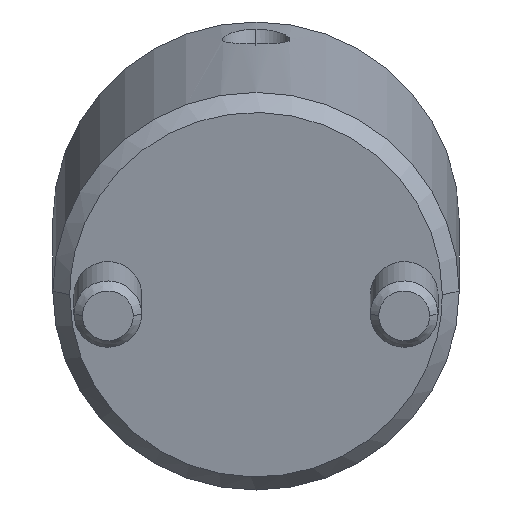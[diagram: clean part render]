
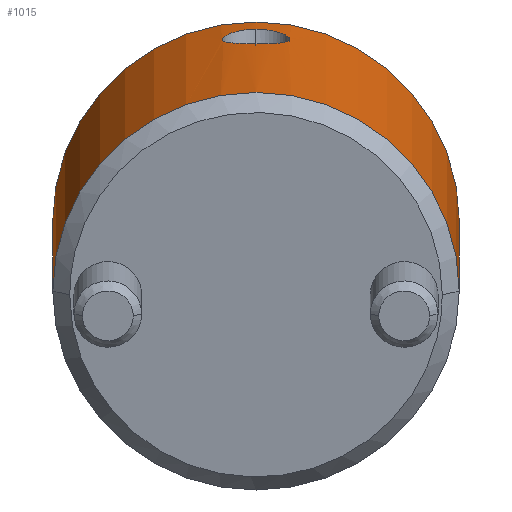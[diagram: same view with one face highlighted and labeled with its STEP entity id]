
A CAD part, front view. The second image highlights one B-rep face of the part: STEP entity #1015.
In plain terms, the highlighted cylindrical face has radius 12 mm (diameter 24 mm), a partial arc.
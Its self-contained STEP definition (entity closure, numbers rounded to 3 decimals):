
#778=CARTESIAN_POINT('Vertex',(0.,12.,1.)) ;
#781=CARTESIAN_POINT('Axis2P3D Location',(0.,0.,1.)) ;
#785=CARTESIAN_POINT('Vertex',(0.,-12.,1.)) ;
#925=CARTESIAN_POINT('Axis2P3D Location',(0.,0.,-1.1)) ;
#930=CARTESIAN_POINT('Line Origine',(0.,12.,-1.1)) ;
#934=CARTESIAN_POINT('Vertex',(0.,12.,21.)) ;
#937=CARTESIAN_POINT('Axis2P3D Location',(0.,0.,21.)) ;
#941=CARTESIAN_POINT('Vertex',(0.,-12.,21.)) ;
#944=CARTESIAN_POINT('Line Origine',(0.,-12.,-1.1)) ;
#956=CARTESIAN_POINT('Control Point',(12.,0.,18.948)) ;
#957=CARTESIAN_POINT('Control Point',(12.,0.344,18.948)) ;
#958=CARTESIAN_POINT('Control Point',(11.988,0.679,18.871)) ;
#959=CARTESIAN_POINT('Control Point',(11.964,0.999,18.717)) ;
#960=CARTESIAN_POINT('Control Point',(11.922,1.385,18.416)) ;
#961=CARTESIAN_POINT('Control Point',(11.884,1.669,18.018)) ;
#962=CARTESIAN_POINT('Control Point',(11.873,1.742,17.896)) ;
#963=CARTESIAN_POINT('Control Point',(11.854,1.867,17.64)) ;
#964=CARTESIAN_POINT('Control Point',(11.841,1.947,17.367)) ;
#965=CARTESIAN_POINT('Control Point',(11.836,1.976,17.226)) ;
#966=CARTESIAN_POINT('Control Point',(11.83,2.01,16.946)) ;
#967=CARTESIAN_POINT('Control Point',(11.833,1.997,16.665)) ;
#968=CARTESIAN_POINT('Control Point',(11.836,1.979,16.526)) ;
#969=CARTESIAN_POINT('Control Point',(11.846,1.919,16.253)) ;
#970=CARTESIAN_POINT('Control Point',(11.862,1.814,15.996)) ;
#971=CARTESIAN_POINT('Control Point',(11.872,1.751,15.874)) ;
#972=CARTESIAN_POINT('Control Point',(11.911,1.48,15.443)) ;
#973=CARTESIAN_POINT('Control Point',(11.957,1.082,15.11)) ;
#974=CARTESIAN_POINT('Control Point',(11.986,0.734,14.942)) ;
#975=CARTESIAN_POINT('Control Point',(12.,0.372,14.859)) ;
#976=CARTESIAN_POINT('Control Point',(12.,0.,14.859)) ;
#977=CARTESIAN_POINT('Vertex',(12.,0.,18.948)) ;
#979=CARTESIAN_POINT('Vertex',(12.,0.,14.859)) ;
#983=CARTESIAN_POINT('Control Point',(12.,0.,14.859)) ;
#984=CARTESIAN_POINT('Control Point',(12.,-0.139,14.859)) ;
#985=CARTESIAN_POINT('Control Point',(11.998,-0.277,14.87)) ;
#986=CARTESIAN_POINT('Control Point',(11.994,-0.413,14.894)) ;
#987=CARTESIAN_POINT('Control Point',(11.982,-0.682,14.964)) ;
#988=CARTESIAN_POINT('Control Point',(11.965,-0.934,15.08)) ;
#989=CARTESIAN_POINT('Control Point',(11.954,-1.056,15.149)) ;
#990=CARTESIAN_POINT('Control Point',(11.932,-1.283,15.305)) ;
#991=CARTESIAN_POINT('Control Point',(11.909,-1.48,15.498)) ;
#992=CARTESIAN_POINT('Control Point',(11.897,-1.569,15.603)) ;
#993=CARTESIAN_POINT('Control Point',(11.864,-1.812,15.942)) ;
#994=CARTESIAN_POINT('Control Point',(11.839,-1.961,16.335)) ;
#995=CARTESIAN_POINT('Control Point',(11.83,-2.014,16.615)) ;
#996=CARTESIAN_POINT('Control Point',(11.829,-2.021,17.04)) ;
#997=CARTESIAN_POINT('Control Point',(11.845,-1.924,17.454)) ;
#998=CARTESIAN_POINT('Control Point',(11.852,-1.881,17.589)) ;
#999=CARTESIAN_POINT('Control Point',(11.869,-1.771,17.852)) ;
#1000=CARTESIAN_POINT('Control Point',(11.891,-1.619,18.093)) ;
#1001=CARTESIAN_POINT('Control Point',(11.902,-1.532,18.208)) ;
#1002=CARTESIAN_POINT('Control Point',(11.931,-1.299,18.468)) ;
#1003=CARTESIAN_POINT('Control Point',(11.959,-1.018,18.673)) ;
#1004=CARTESIAN_POINT('Control Point',(11.973,-0.837,18.772)) ;
#1005=CARTESIAN_POINT('Control Point',(11.989,-0.56,18.88)) ;
#1006=CARTESIAN_POINT('Control Point',(11.997,-0.269,18.932)) ;
#1007=CARTESIAN_POINT('Control Point',(11.999,-0.18,18.943)) ;
#1008=CARTESIAN_POINT('Control Point',(12.,-0.09,18.948)) ;
#1009=CARTESIAN_POINT('Control Point',(12.,0.,18.948)) ;
#782=DIRECTION('Axis2P3D Direction',(0.,0.,1.)) ;
#926=DIRECTION('Axis2P3D Direction',(0.,-0.,1.)) ;
#927=DIRECTION('Axis2P3D XDirection',(0.,-1.,0.)) ;
#931=DIRECTION('Vector Direction',(0.,0.,1.)) ;
#938=DIRECTION('Axis2P3D Direction',(0.,-0.,1.)) ;
#945=DIRECTION('Vector Direction',(0.,0.,1.)) ;
#783=AXIS2_PLACEMENT_3D('Circle Axis2P3D',#781,#782,$) ;
#928=AXIS2_PLACEMENT_3D('Cylinder Axis2P3D',#925,#926,#927) ;
#939=AXIS2_PLACEMENT_3D('Circle Axis2P3D',#937,#938,$) ;
#950=ORIENTED_EDGE('',*,*,#936,.F.) ;
#951=ORIENTED_EDGE('',*,*,#943,.T.) ;
#952=ORIENTED_EDGE('',*,*,#948,.T.) ;
#953=ORIENTED_EDGE('',*,*,#787,.F.) ;
#1012=ORIENTED_EDGE('',*,*,#981,.T.) ;
#1013=ORIENTED_EDGE('',*,*,#1010,.T.) ;
#1014=FACE_BOUND('',#1011,.T.) ;
#932=VECTOR('Line Direction',#931,1.) ;
#946=VECTOR('Line Direction',#945,1.) ;
#1015=ADVANCED_FACE('MANIFOLD_SOLID_BREP #1100',(#954,#1014),#929,.T.) ;
#955=B_SPLINE_CURVE_WITH_KNOTS('',5,(#956,#957,#958,#959,#960,#961,#962,#963,#964,#965,#966,#967,#968,#969,#970,#971,#972,#973,#974,#975,#976),.UNSPECIFIED.,.F.,.U.,(6,3,3,3,3,3,6),(0.,2.427,3.431,4.427,5.412,6.39,9.01),.UNSPECIFIED.) ;
#982=B_SPLINE_CURVE_WITH_KNOTS('',5,(#983,#984,#985,#986,#987,#988,#989,#990,#991,#992,#993,#994,#995,#996,#997,#998,#999,#1000,#1001,#1002,#1003,#1004,#1005,#1006,#1007,#1008,#1009),.UNSPECIFIED.,.F.,.U.,(6,3,3,3,3,3,3,3,6),(0.,0.981,1.96,2.938,4.906,5.909,6.91,8.376,9.012),.UNSPECIFIED.) ;
#784=CIRCLE('generated circle',#783,12.) ;
#940=CIRCLE('generated circle',#939,12.) ;
#929=CYLINDRICAL_SURFACE('generated cylinder',#928,12.) ;
#787=EDGE_CURVE('',#779,#786,#784,.F.) ;
#936=EDGE_CURVE('',#935,#779,#933,.F.) ;
#943=EDGE_CURVE('',#935,#942,#940,.F.) ;
#948=EDGE_CURVE('',#942,#786,#947,.F.) ;
#981=EDGE_CURVE('',#978,#980,#955,.T.) ;
#1010=EDGE_CURVE('',#980,#978,#982,.T.) ;
#949=EDGE_LOOP('',(#950,#951,#952,#953)) ;
#1011=EDGE_LOOP('',(#1012,#1013)) ;
#954=FACE_OUTER_BOUND('',#949,.T.) ;
#933=LINE('Line',#930,#932) ;
#947=LINE('Line',#944,#946) ;
#779=VERTEX_POINT('',#778) ;
#786=VERTEX_POINT('',#785) ;
#935=VERTEX_POINT('',#934) ;
#942=VERTEX_POINT('',#941) ;
#978=VERTEX_POINT('',#977) ;
#980=VERTEX_POINT('',#979) ;
